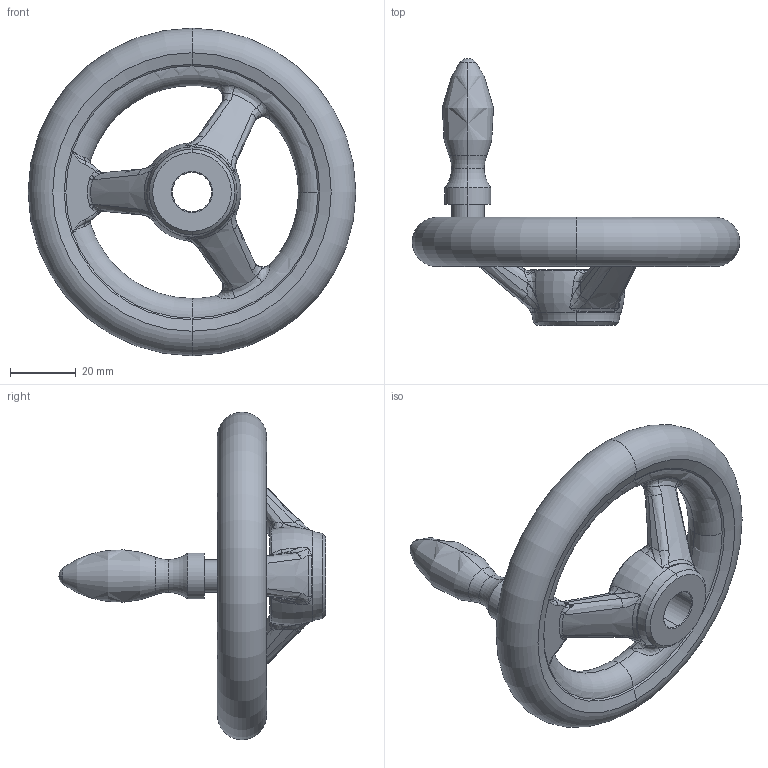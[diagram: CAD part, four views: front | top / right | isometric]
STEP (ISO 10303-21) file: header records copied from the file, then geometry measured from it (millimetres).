
FILE_DESCRIPTION (( 'STEP AP203' ), '1' );
FILE_NAME ('din950_f4_100x12.step', '2010-03-23T10:29:54', ( '_' ), ( '_' ), 'SwSTEP 2.0', 'SolidWorks 2010', '' );
FILE_SCHEMA (( 'CONFIG_CONTROL_DESIGN' ));
Length unit declared in the file: millimetre
Products named in the file (1): din950_f4_100x12
Bounding box: 100 x 81.5 x 100 mm (x, y, z)
Volume: 74209.8 mm3; surface area: 20224 mm2
Topology: 1 solids, 1 shells, 208 faces, 502 edges, 270 vertices
Faces by surface type: bspline 130, torus 27, cone 18, cylinder 12, plane 11, sphere 10
Entity records: 23276 total; most frequent: CARTESIAN_POINT 19220, ORIENTED_EDGE 960, DIRECTION 623, EDGE_CURVE 480, AXIS2_PLACEMENT_3D 297, VERTEX_POINT 270, B_SPLINE_CURVE_WITH_KNOTS 229, CIRCLE 218
